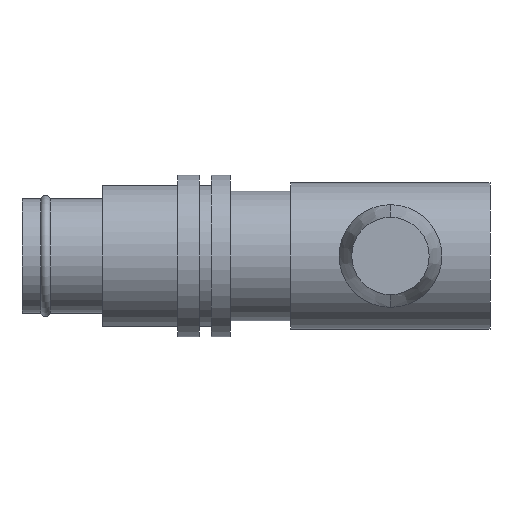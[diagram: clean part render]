
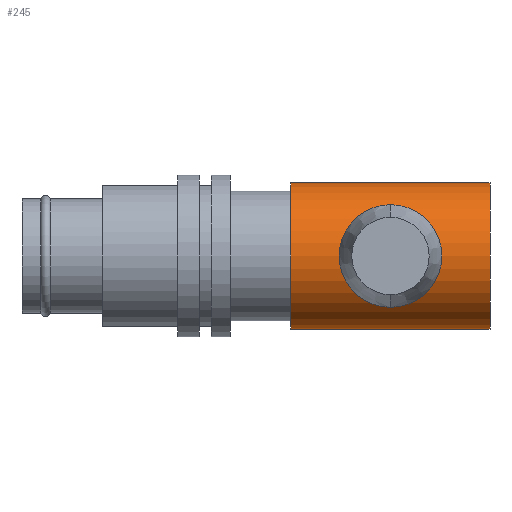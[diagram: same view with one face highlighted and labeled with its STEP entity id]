
A CAD part, front view. The second image highlights one B-rep face of the part: STEP entity #245.
In plain terms, the highlighted cylindrical face has radius 9.038 mm (diameter 18.075 mm), a partial arc.
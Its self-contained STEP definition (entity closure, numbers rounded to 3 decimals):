
#2 = CYLINDRICAL_SURFACE ( 'NONE', #41, 9.038 ) ;
#41 = AXIS2_PLACEMENT_3D ( 'NONE', #211, #535, #627 ) ;
#78 = CARTESIAN_POINT ( 'NONE',  ( 33.211, 0., -9.038 ) ) ;
#98 = ORIENTED_EDGE ( 'NONE', *, *, #406, .T. ) ;
#103 = LINE ( 'NONE', #1168, #350 ) ;
#122 = CARTESIAN_POINT ( 'NONE',  ( 33.211, 0., 0. ) ) ;
#127 = EDGE_CURVE ( 'NONE', #1220, #429, #103, .T. ) ;
#129 = LINE ( 'NONE', #597, #997 ) ;
#137 = EDGE_CURVE ( 'NONE', #871, #429, #1156, .T. ) ;
#159 = DIRECTION ( 'NONE',  ( -1., 0., 0. ) ) ;
#211 = CARTESIAN_POINT ( 'NONE',  ( 33.211, 0., 0. ) ) ;
#245 = ADVANCED_FACE ( 'NONE', ( #490 ), #2, .T. ) ;
#301 = ORIENTED_EDGE ( 'NONE', *, *, #643, .F. ) ;
#303 = CIRCLE ( 'NONE', #1263, 9.038 ) ;
#348 = AXIS2_PLACEMENT_3D ( 'NONE', #122, #923, #1139 ) ;
#350 = VECTOR ( 'NONE', #834, 1000. ) ;
#406 = EDGE_CURVE ( 'NONE', #430, #1220, #303, .T. ) ;
#429 = VERTEX_POINT ( 'NONE', #568 ) ;
#430 = VERTEX_POINT ( 'NONE', #1318 ) ;
#490 = FACE_OUTER_BOUND ( 'NONE', #672, .T. ) ;
#535 = DIRECTION ( 'NONE',  ( -1., 0., 0. ) ) ;
#568 = CARTESIAN_POINT ( 'NONE',  ( 33.211, 0., 9.038 ) ) ;
#597 = CARTESIAN_POINT ( 'NONE',  ( 33.211, 0., -9.038 ) ) ;
#627 = DIRECTION ( 'NONE',  ( 0., 0., 1. ) ) ;
#643 = EDGE_CURVE ( 'NONE', #430, #871, #129, .T. ) ;
#672 = EDGE_LOOP ( 'NONE', ( #301, #98, #790, #1022 ) ) ;
#775 = CARTESIAN_POINT ( 'NONE',  ( 57.789, 0., 0. ) ) ;
#790 = ORIENTED_EDGE ( 'NONE', *, *, #127, .T. ) ;
#834 = DIRECTION ( 'NONE',  ( -1., 0., 0. ) ) ;
#871 = VERTEX_POINT ( 'NONE', #78 ) ;
#888 = DIRECTION ( 'NONE',  ( 0., 0., 1. ) ) ;
#923 = DIRECTION ( 'NONE',  ( -1., 0., 0. ) ) ;
#997 = VECTOR ( 'NONE', #1344, 1000. ) ;
#1022 = ORIENTED_EDGE ( 'NONE', *, *, #137, .F. ) ;
#1139 = DIRECTION ( 'NONE',  ( 0., 0., 1. ) ) ;
#1156 = CIRCLE ( 'NONE', #348, 9.038 ) ;
#1168 = CARTESIAN_POINT ( 'NONE',  ( 33.211, 0., 9.038 ) ) ;
#1220 = VERTEX_POINT ( 'NONE', #1259 ) ;
#1259 = CARTESIAN_POINT ( 'NONE',  ( 57.789, 0., 9.038 ) ) ;
#1263 = AXIS2_PLACEMENT_3D ( 'NONE', #775, #159, #888 ) ;
#1318 = CARTESIAN_POINT ( 'NONE',  ( 57.789, 0., -9.038 ) ) ;
#1344 = DIRECTION ( 'NONE',  ( -1., 0., 0. ) ) ;
